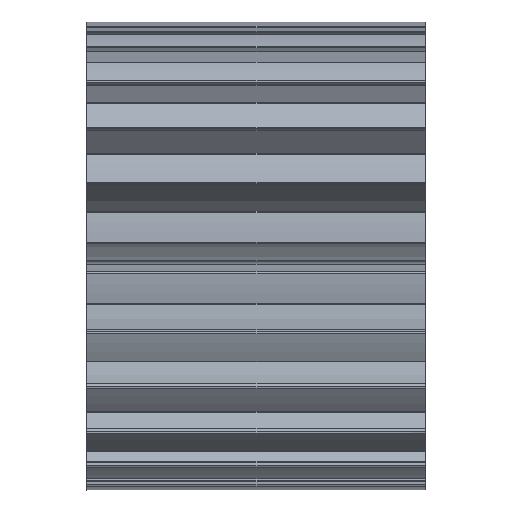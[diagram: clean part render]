
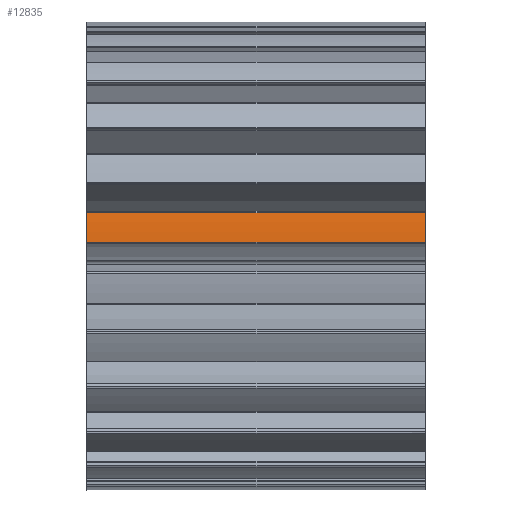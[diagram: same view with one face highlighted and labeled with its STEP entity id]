
A CAD part, left-side view. The second image highlights one B-rep face of the part: STEP entity #12835.
In plain terms, the highlighted cylindrical face has radius 55.48 mm (diameter 110.96 mm), a partial arc.
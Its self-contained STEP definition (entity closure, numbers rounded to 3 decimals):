
#1156=CARTESIAN_POINT('',(0.,0.,0.));
#1157=DIRECTION('',(0.,-1.,0.));
#1158=DIRECTION('',(-0.983,0.,0.185));
#1159=AXIS2_PLACEMENT_3D('',#1156,#1157,#1158);
#2840=CARTESIAN_POINT('',(0.,80.,0.));
#2841=DIRECTION('',(0.,1.,0.));
#2842=DIRECTION('',(-0.998,0.,0.059));
#2843=AXIS2_PLACEMENT_3D('',#2840,#2841,#2842);
#5171=DIRECTION('',(0.,1.,0.));
#5172=VECTOR('',#5171,80.);
#5173=CARTESIAN_POINT('',(-55.384,0.,3.265));
#5174=LINE('',#5173,#5172);
#5183=DIRECTION('',(0.,-1.,0.));
#5184=VECTOR('',#5183,80.);
#5185=CARTESIAN_POINT('',(-54.517,80.,10.29));
#5186=LINE('',#5185,#5184);
#5963=CARTESIAN_POINT('',(-55.384,0.,3.265));
#5965=VERTEX_POINT('',#5963);
#6287=CARTESIAN_POINT('',(-54.517,0.,10.29));
#6288=VERTEX_POINT('',#6287);
#6760=CARTESIAN_POINT('',(-55.384,80.,3.265));
#6761=CARTESIAN_POINT('',(-54.517,80.,10.29));
#6762=VERTEX_POINT('',#6760);
#6763=VERTEX_POINT('',#6761);
#12823=CARTESIAN_POINT('',(0.,80.,0.));
#12824=DIRECTION('',(0.,1.,0.));
#12825=DIRECTION('',(0.,0.,1.));
#12826=AXIS2_PLACEMENT_3D('',#12823,#12824,#12825);
#12827=CYLINDRICAL_SURFACE('',#12826,55.48);
#12829=ORIENTED_EDGE('',*,*,#12828,.T.);
#12830=ORIENTED_EDGE('',*,*,#7977,.T.);
#12831=ORIENTED_EDGE('',*,*,#12815,.T.);
#12832=ORIENTED_EDGE('',*,*,#8701,.T.);
#12833=EDGE_LOOP('',(#12829,#12830,#12831,#12832));
#12834=FACE_OUTER_BOUND('',#12833,.F.);
#12835=ADVANCED_FACE('',(#12834),#12827,.T.);
#1160=CIRCLE('',#1159,55.48);
#2844=CIRCLE('',#2843,55.48);
#7977=EDGE_CURVE('',#6288,#5965,#1160,.T.);
#8701=EDGE_CURVE('',#6762,#6763,#2844,.T.);
#12815=EDGE_CURVE('',#5965,#6762,#5174,.T.);
#12828=EDGE_CURVE('',#6763,#6288,#5186,.T.);
